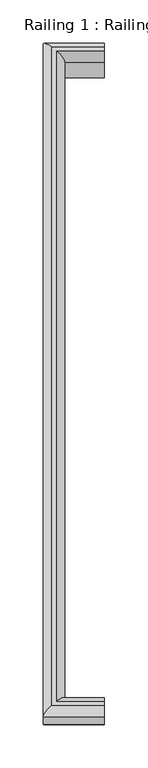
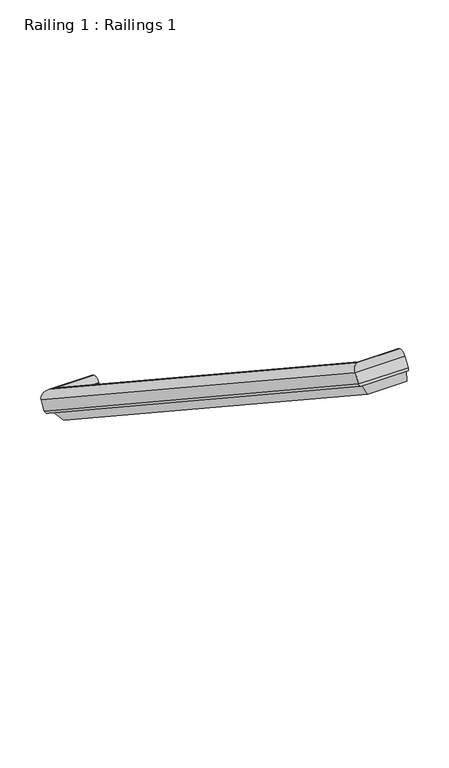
"""IFC4 building model written with IfcOpenShell, lengths in millimetres: railing geometry, Railing 1 : Railings 1."""

from ifc_helpers import new_model, si_unit, frame, origin, place, context, project, spatial, circle_curve, ellipse_curve, source, transform, mapped, element, save
from ifc_brep_helpers import plane_surface, cylinder_surface, advanced_brep


def railing_1_railings_1_d953be8f(model_context):
    return source(origin(), model_context, "Body", "AdvancedBrep", [
        advanced_brep(
        [(52.5966269, 4560.3360746, 1514.5665555), (52.5966269, 4561.519351, 1508.8072218), (52.5966269, 4564.3101305, 1506.9677455), (52.5966269, 4563.4231667, 1491.993992), (52.5966269, 4571.7726127, 1486.490652), (52.5966269, 4589.2404235, 1512.9921119), (52.5966269, 4586.3943174, 1526.8448979), (52.5966269, 4582.2195944, 1529.5965679), (52.5966269, 4568.3668084, 1526.7504618), (-13.8892606, 4561.519351, 1508.8072218), (-13.8892606, 5331.9608029, 1000.9889522), (52.5966269, 5331.9608029, 1000.9889522), (52.5966269, 5329.1700234, 1002.8284285), (-10.546788, 5329.1700234, 1002.8284285), (-10.546788, 4564.3101305, 1506.9677455), (-3.046788, 4563.4231667, 1491.993992), (-3.046788, 5315.7588906, 996.1096849), (52.5966269, 5315.7588906, 996.1096849), (52.5966269, 5307.4094445, 1001.6130249), (6.953212, 5307.4094445, 1001.6130249), (6.953212, 4571.7726127, 1486.490652), (6.953212, 4589.2404235, 1512.9921119), (-3.046788, 4586.3943174, 1526.8448979), (-3.046788, 5338.7300413, 1030.9605908), (52.5966269, 5338.7300413, 1030.9605908), (52.5966269, 5342.9047644, 1028.2089209), (-8.046788, 5342.9047644, 1028.2089209), (-8.046788, 4582.2195944, 1529.5965679), (-18.046788, 4568.3668084, 1526.7504618), (-18.046788, 4560.3360746, 1514.5665555), (6.953212, 5324.8772553, 1028.1144848), (-18.046788, 5345.7508704, 1014.3561348), (-18.046788, 5337.7201366, 1002.1722286), (52.5966269, 5337.7201366, 1002.1722286), (52.5966269, 5345.7508704, 1014.3561348), (52.5966269, 5324.8772553, 1028.1144848)],
        [
            (0, 1, circle_curve(frame((52.5966269, 4563.8073797, 1512.2785269), z_axis=(1.0, 0.0, 0.0), x_axis=(0.0, -0.8349446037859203, 0.5503339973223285)), 4.1575274)),
            (1, 2),
            (2, 3),
            (3, 4),
            (4, 5),
            (5, 6, circle_curve(frame((52.5966269, 4580.8909775, 1518.4954518), z_axis=(1.0, 0.0, 0.0), x_axis=(0.0, -0.8349446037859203, 0.5503339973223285)), 10.0)),
            (6, 7),
            (7, 8, circle_curve(frame((52.5966269, 4576.7162544, 1521.2471218), z_axis=(1.0, 0.0, 0.0), x_axis=(0.0, -0.8349446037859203, 0.5503339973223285)), 10.0)),
            (8, 0),
            (1, 9),
            (9, 10),
            (10, 11),
            (11, 12),
            (12, 13),
            (13, 14),
            (14, 2),
            (14, 15),
            (15, 3),
            (15, 16),
            (16, 17),
            (17, 18),
            (18, 19),
            (19, 20),
            (20, 4),
            (20, 21),
            (21, 5),
            (6, 22),
            (22, 23),
            (23, 24),
            (24, 25),
            (25, 26),
            (26, 27),
            (27, 7),
            (8, 28),
            (28, 29),
            (29, 0),
            (13, 16),
            (19, 30),
            (30, 21),
            (28, 31),
            (31, 32),
            (32, 29),
            (33, 34),
            (34, 25, circle_curve(frame((52.5966269, 5337.4014244, 1019.8594748), z_axis=(1.0, 0.0, 0.0), x_axis=(0.0, 0.8349446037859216, -0.5503339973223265)), 10.0)),
            (24, 35, circle_curve(frame((52.5966269, 5333.2267014, 1022.6111448), z_axis=(1.0, 0.0, 0.0), x_axis=(0.0, 0.8349446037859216, -0.5503339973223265)), 10.0)),
            (35, 18),
            (17, 12),
            (11, 33, circle_curve(frame((52.5966269, 5334.2488316, 1004.4602572), z_axis=(1.0, 0.0, 0.0), x_axis=(0.0, 0.8349446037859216, -0.5503339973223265)), 4.1575274)),
            (35, 30),
            (31, 34),
            (33, 32),
            (21, 22, ellipse_curve(frame((-3.046788, 4580.8909775, 1518.4954518), z_axis=(0.7071067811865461, -0.5903949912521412, 0.3891449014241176), x_axis=(0.7071067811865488, 0.5903949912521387, -0.38914490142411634)), 14.1421356, 10.0)),
            (27, 28, ellipse_curve(frame((-8.046788, 4576.7162544, 1521.2471218), z_axis=(0.7071067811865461, -0.5903949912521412, 0.3891449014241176), x_axis=(0.7071067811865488, 0.5903949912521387, -0.38914490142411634)), 14.1421356, 10.0)),
            (30, 23, ellipse_curve(frame((-3.046788, 5333.2267014, 1022.6111448), z_axis=(-0.7071067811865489, -0.5903949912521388, 0.3891449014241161), x_axis=(0.7071067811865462, -0.5903949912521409, 0.3891449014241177)), 14.1421356, 10.0)),
            (26, 31, ellipse_curve(frame((-8.046788, 5337.4014244, 1019.8594748), z_axis=(-0.7071067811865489, -0.5903949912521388, 0.3891449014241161), x_axis=(0.7071067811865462, -0.5903949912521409, 0.3891449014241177)), 14.1421356, 10.0)),
            (29, 9, ellipse_curve(frame((-13.8892606, 4563.8073797, 1512.2785269), z_axis=(0.7071067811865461, -0.5903949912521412, 0.3891449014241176), x_axis=(0.7071067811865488, 0.5903949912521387, -0.38914490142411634)), 5.8796316, 4.1575274)),
            (32, 10, ellipse_curve(frame((-13.8892606, 5334.2488316, 1004.4602572), z_axis=(-0.7071067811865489, -0.5903949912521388, 0.3891449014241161), x_axis=(0.7071067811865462, -0.5903949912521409, 0.3891449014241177)), 5.8796316, 4.1575274)),
        ],
        [
            plane_surface(frame((52.5966269, 4558.048046, 1511.0952505), z_axis=(1.0, 0.0, 0.0), x_axis=(0.0, 0.5503339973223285, 0.8349446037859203))),
            plane_surface(frame((52.5966269, 4561.519351, 1508.8072218), z_axis=(0.0, -0.5503339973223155, -0.8349446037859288), x_axis=(-1.0, 0.0, 0.0))),
            plane_surface(frame((52.5966269, 4564.3101305, 1506.9677455), z_axis=(0.0, -0.9982502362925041, 0.05913092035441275), x_axis=(-1.0, 0.0, 0.0))),
            plane_surface(frame((52.5966269, 4563.4231667, 1491.993992), z_axis=(0.0, -0.5503339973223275, -0.834944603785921), x_axis=(-1.0, 0.0, 0.0))),
            plane_surface(frame((52.5966269, 4571.7726127, 1486.490652), z_axis=(0.0, 0.8349446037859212, -0.5503339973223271), x_axis=(-1.0, 0.0, 0.0))),
            plane_surface(frame((52.5966269, 4586.3943174, 1526.8448979), z_axis=(0.0, 0.5503339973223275, 0.834944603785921), x_axis=(-1.0, 0.0, 0.0))),
            plane_surface(frame((52.5966269, 4568.3668084, 1526.7504618), z_axis=(0.0, -0.8349446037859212, 0.5503339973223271), x_axis=(-1.0, 0.0, 0.0))),
            plane_surface(frame((-10.546788, 4564.3101305, 1506.9677455), z_axis=(-0.8660254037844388, -0.27516699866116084, -0.41747230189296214), x_axis=(0.0, 0.8349446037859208, -0.5503339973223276))),
            plane_surface(frame((6.953212, 4571.7726127, 1486.490652), z_axis=(1.0, 0.0, 0.0), x_axis=(0.0, 0.8349446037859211, -0.5503339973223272))),
            plane_surface(frame((-18.046788, 4568.3668084, 1526.7504618), z_axis=(-1.0000000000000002, 0.0, 0.0), x_axis=(0.0, 0.8349446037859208, -0.5503339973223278))),
            plane_surface(frame((52.5966269, 5335.432108, 998.7009235), z_axis=(1.0, 0.0, 0.0), x_axis=(0.0, 0.5503339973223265, 0.8349446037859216))),
            plane_surface(frame((-10.546788, 5329.1700234, 1002.8284285), z_axis=(0.0, 0.447916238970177, -0.8940755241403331), x_axis=(1.0, 0.0, 0.0))),
            plane_surface(frame((6.953212, 5307.4094445, 1001.6130249), z_axis=(0.0, -0.8349446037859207, 0.5503339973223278), x_axis=(1.0, 0.0, 0.0))),
            plane_surface(frame((-18.046788, 5345.7508704, 1014.3561348), z_axis=(0.0, 0.8349446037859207, -0.5503339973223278), x_axis=(1.0, 0.0, 0.0))),
            cylinder_surface(frame((52.5966269, 4580.8909775, 1518.4954518), z_axis=(1.0, 0.0, 0.0), x_axis=(0.0, -0.8349446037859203, 0.5503339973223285)), 10.0),
            cylinder_surface(frame((52.5966269, 4576.7162544, 1521.2471218), z_axis=(1.0, 0.0, 0.0), x_axis=(0.0, -0.8349446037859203, 0.5503339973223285)), 10.0),
            cylinder_surface(frame((-3.046788, 4568.3668084, 1526.7504618), z_axis=(0.0, -0.8349446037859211, 0.5503339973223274), x_axis=(-1.0, 0.0, 0.0)), 10.0),
            cylinder_surface(frame((-8.046788, 4568.3668084, 1526.7504618), z_axis=(0.0, -0.8349446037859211, 0.5503339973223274), x_axis=(-1.0, 0.0, 0.0)), 10.0),
            cylinder_surface(frame((-18.046788, 5333.2267014, 1022.6111448), z_axis=(-1.0, 0.0, 0.0), x_axis=(0.0, 0.8349446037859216, -0.5503339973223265)), 10.0),
            cylinder_surface(frame((-18.046788, 5337.4014244, 1019.8594748), z_axis=(-1.0, 0.0, 0.0), x_axis=(0.0, 0.8349446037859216, -0.5503339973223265)), 10.0),
            cylinder_surface(frame((52.5966269, 4563.8073797, 1512.2785269), z_axis=(1.0, 0.0, 0.0), x_axis=(0.0, -0.8349446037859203, 0.5503339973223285)), 4.1575274),
            cylinder_surface(frame((-13.8892606, 4560.3360746, 1514.5665555), z_axis=(0.0, -0.8349446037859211, 0.5503339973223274), x_axis=(-1.0, 0.0, 0.0)), 4.1575274),
            cylinder_surface(frame((-18.046788, 5334.2488316, 1004.4602572), z_axis=(-1.0, 0.0, 0.0), x_axis=(0.0, 0.8349446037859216, -0.5503339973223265)), 4.1575274),
        ],
        [
            (0, [[1, 2, 3, 4, 5, 6, 7, 8, 9]]),
            (1, [[-2, 10, 11, 12, 13, 14, 15, 16]]),
            (2, [[-3, -16, 17, 18]]),
            (3, [[-4, -18, 19, 20, 21, 22, 23, 24]]),
            (4, [[-5, -24, 25, 26]]),
            (5, [[-7, 27, 28, 29, 30, 31, 32, 33]]),
            (6, [[-9, 34, 35, 36]]),
            (7, [[-17, -15, 37, -19]]),
            (8, [[-25, -23, 38, 39]]),
            (9, [[-35, 40, 41, 42]]),
            (10, [[43, 44, -30, 45, 46, -21, 47, -13, 48]]),
            (11, [[-37, -14, -47, -20]]),
            (12, [[-38, -22, -46, 49]]),
            (13, [[-41, 50, -43, 51]]),
            (14, [[-6, -26, 52, -27]]),
            (15, [[-8, -33, 53, -34]]),
            (16, [[-52, -39, 54, -28]]),
            (17, [[-53, -32, 55, -40]]),
            (18, [[-54, -49, -45, -29]]),
            (19, [[-55, -31, -44, -50]]),
            (20, [[-1, -36, 56, -10]]),
            (21, [[-56, -42, 57, -11]]),
            (22, [[-57, -51, -48, -12]]),
        ],
    ),
    ])


if __name__ == "__main__":
    model = new_model("IFC4")
    model_context = context("Model", 3, world=origin())
    ifc_project = project(units=[si_unit("LENGTHUNIT", "METRE", prefix="MILLI")], contexts=[model_context])
    site = spatial("IfcSite", under=ifc_project)
    building = spatial("IfcBuilding", under=site)
    placement = place(None, origin())
    railing_1_railings_1_shape = railing_1_railings_1_d953be8f(model_context)
    element("IfcRailing", 1, ObjectType="Railing 1 : Railings 1", at=placement, inside=building, context=model_context, shape_type="MappedRepresentation", body=[
        mapped(railing_1_railings_1_shape, transform((0.0, 0.0, 0.0), x_axis=(1.0, 0.0, 0.0), y_axis=(0.0, 1.0, 0.0), z_axis=(0.0, 0.0, 1.0))),
    ])
    save(model, "model.ifc")
